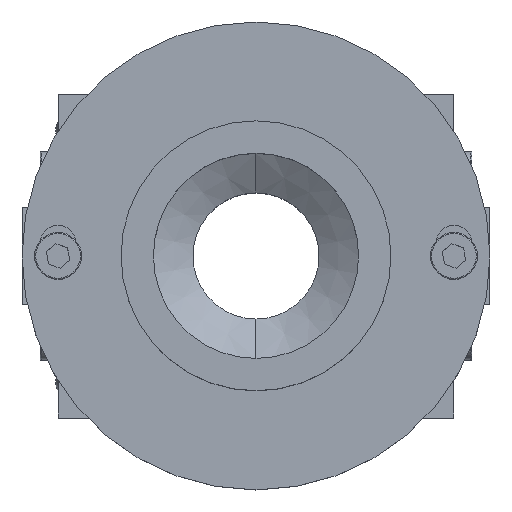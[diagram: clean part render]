
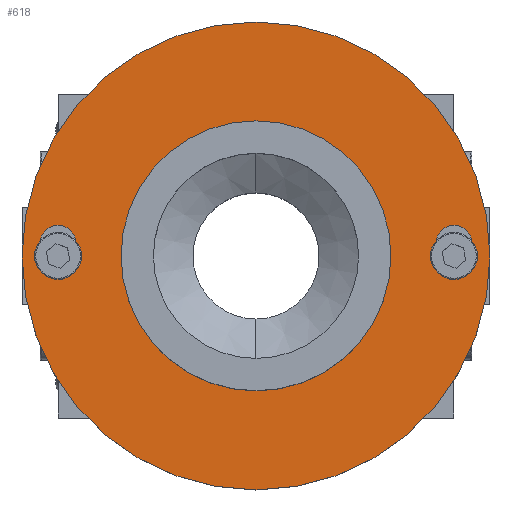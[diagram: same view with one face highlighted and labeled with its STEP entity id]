
A CAD part, top view. The second image highlights one B-rep face of the part: STEP entity #618.
In plain terms, the highlighted planar face has unit normal (0, 0, 1) as drawn and (-1, 0, 0) by its records, which use the part's own axes.
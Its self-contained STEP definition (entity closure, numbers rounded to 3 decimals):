
#35 = ORIENTED_EDGE ( 'NONE', *, *, #3062, .F. ) ;
#40 = ORIENTED_EDGE ( 'NONE', *, *, #3041, .F. ) ;
#65 = ORIENTED_EDGE ( 'NONE', *, *, #3074, .T. ) ;
#88 = ORIENTED_EDGE ( 'NONE', *, *, #3048, .F. ) ;
#99 = ORIENTED_EDGE ( 'NONE', *, *, #3076, .F. ) ;
#104 = ORIENTED_EDGE ( 'NONE', *, *, #2149, .F. ) ;
#107 = ORIENTED_EDGE ( 'NONE', *, *, #3078, .F. ) ;
#124 = ORIENTED_EDGE ( 'NONE', *, *, #3080, .F. ) ;
#133 = ORIENTED_EDGE ( 'NONE', *, *, #3050, .T. ) ;
#140 = ORIENTED_EDGE ( 'NONE', *, *, #3075, .F. ) ;
#461 = DIRECTION ( 'NONE',  ( 1., 0., 0. ) ) ;
#579 = PLANE ( 'NONE',  #3333 ) ;
#584 = DIRECTION ( 'NONE',  ( 0., 0., -1. ) ) ;
#585 = CARTESIAN_POINT ( 'NONE',  ( 23., 65., 0. ) ) ;
#618 = ADVANCED_FACE ( 'NONE', ( #2691, #2947, #2826, #2735 ), #579, .F. ) ;
#753 = ORIENTED_EDGE ( 'NONE', *, *, #3081, .F. ) ;
#758 = ORIENTED_EDGE ( 'NONE', *, *, #3083, .F. ) ;
#771 = ORIENTED_EDGE ( 'NONE', *, *, #2145, .F. ) ;
#785 = ORIENTED_EDGE ( 'NONE', *, *, #3082, .F. ) ;
#857 = CARTESIAN_POINT ( 'NONE',  ( 23., -55., 0. ) ) ;
#859 = DIRECTION ( 'NONE',  ( -1., 0., 0. ) ) ;
#862 = DIRECTION ( 'NONE',  ( 0., 0., 1. ) ) ;
#863 = CARTESIAN_POINT ( 'NONE',  ( 23., 55., 0. ) ) ;
#864 = DIRECTION ( 'NONE',  ( 0., 0., -1. ) ) ;
#870 = DIRECTION ( 'NONE',  ( -1., 0., 0. ) ) ;
#1543 = CARTESIAN_POINT ( 'NONE',  ( 23., 0., 0. ) ) ;
#1544 = DIRECTION ( 'NONE',  ( -1., 0., 0. ) ) ;
#1548 = CARTESIAN_POINT ( 'NONE',  ( 23., 0., 0. ) ) ;
#1549 = DIRECTION ( 'NONE',  ( -1., 0., 0. ) ) ;
#1550 = DIRECTION ( 'NONE',  ( 0., 0., 1. ) ) ;
#1553 = DIRECTION ( 'NONE',  ( 0., 0., 1. ) ) ;
#1567 = CARTESIAN_POINT ( 'NONE',  ( 23., -60., -3.5 ) ) ;
#1801 = DIRECTION ( 'NONE',  ( 0., 0., 1. ) ) ;
#1805 = DIRECTION ( 'NONE',  ( 0., 0., -1. ) ) ;
#1806 = DIRECTION ( 'NONE',  ( -1., 0., 0. ) ) ;
#1807 = DIRECTION ( 'NONE',  ( 0., 0., 1. ) ) ;
#1808 = CARTESIAN_POINT ( 'NONE',  ( 23., 60., -3.5 ) ) ;
#1809 = CARTESIAN_POINT ( 'NONE',  ( 23., 0., 0. ) ) ;
#1810 = DIRECTION ( 'NONE',  ( -1., 0., 0. ) ) ;
#1811 = CARTESIAN_POINT ( 'NONE',  ( 23., 55., 0. ) ) ;
#1812 = DIRECTION ( 'NONE',  ( 0., 0., -1. ) ) ;
#1814 = CARTESIAN_POINT ( 'NONE',  ( 23., 50., -3.5 ) ) ;
#1815 = CARTESIAN_POINT ( 'NONE',  ( 23., 55., -3.5 ) ) ;
#1816 = DIRECTION ( 'NONE',  ( -1., 0., 0. ) ) ;
#1817 = DIRECTION ( 'NONE',  ( 0., 0., -1. ) ) ;
#1819 = DIRECTION ( 'NONE',  ( 0., 0., -1. ) ) ;
#1821 = CARTESIAN_POINT ( 'NONE',  ( 23., -55., 0. ) ) ;
#1822 = CARTESIAN_POINT ( 'NONE',  ( 23., -50., -3.5 ) ) ;
#1823 = DIRECTION ( 'NONE',  ( 0., 0., 1. ) ) ;
#1825 = DIRECTION ( 'NONE',  ( -1., 0., 0. ) ) ;
#1826 = DIRECTION ( 'NONE',  ( -1., 0., 0. ) ) ;
#1827 = CARTESIAN_POINT ( 'NONE',  ( 23., -55., -3.5 ) ) ;
#1828 = DIRECTION ( 'NONE',  ( 0., 0., 1. ) ) ;
#1917 = DIRECTION ( 'NONE',  ( 0., 0., 1. ) ) ;
#2145 = EDGE_CURVE ( 'NONE', #3958, #3683, #2945, .T. ) ;
#2149 = EDGE_CURVE ( 'NONE', #3925, #3689, #2802, .T. ) ;
#2266 = VECTOR ( 'NONE', #1819, 1000. ) ;
#2281 = LINE ( 'NONE', #1808, #2909 ) ;
#2285 = VERTEX_POINT ( 'NONE', #4872 ) ;
#2691 = FACE_BOUND ( 'NONE', #5577, .T. ) ;
#2735 = FACE_OUTER_BOUND ( 'NONE', #5623, .T. ) ;
#2802 = CIRCLE ( 'NONE', #3378, 5. ) ;
#2826 = FACE_BOUND ( 'NONE', #5290, .T. ) ;
#2843 = CIRCLE ( 'NONE', #3344, 65. ) ;
#2855 = CIRCLE ( 'NONE', #3362, 37.5 ) ;
#2864 = VECTOR ( 'NONE', #1801, 1000. ) ;
#2869 = LINE ( 'NONE', #1567, #2922 ) ;
#2878 = CIRCLE ( 'NONE', #3357, 65. ) ;
#2892 = CIRCLE ( 'NONE', #3356, 37.5 ) ;
#2901 = LINE ( 'NONE', #1822, #2266 ) ;
#2903 = CIRCLE ( 'NONE', #3340, 5. ) ;
#2909 = VECTOR ( 'NONE', #1805, 1000. ) ;
#2911 = LINE ( 'NONE', #1814, #2864 ) ;
#2917 = CIRCLE ( 'NONE', #3343, 5. ) ;
#2922 = VECTOR ( 'NONE', #1917, 1000. ) ;
#2945 = CIRCLE ( 'NONE', #3361, 5. ) ;
#2947 = FACE_BOUND ( 'NONE', #5192, .T. ) ;
#2963 = CIRCLE ( 'NONE', #3341, 5. ) ;
#2974 = CIRCLE ( 'NONE', #3345, 5. ) ;
#3041 = EDGE_CURVE ( 'NONE', #3826, #3869, #2855, .T. ) ;
#3048 = EDGE_CURVE ( 'NONE', #3869, #3826, #2892, .T. ) ;
#3050 = EDGE_CURVE ( 'NONE', #2285, #3726, #2878, .T. ) ;
#3062 = EDGE_CURVE ( 'NONE', #3735, #3908, #2869, .T. ) ;
#3074 = EDGE_CURVE ( 'NONE', #3726, #2285, #2843, .T. ) ;
#3075 = EDGE_CURVE ( 'NONE', #3816, #3925, #2974, .T. ) ;
#3076 = EDGE_CURVE ( 'NONE', #3689, #3857, #2281, .T. ) ;
#3078 = EDGE_CURVE ( 'NONE', #3857, #3880, #2917, .T. ) ;
#3080 = EDGE_CURVE ( 'NONE', #3880, #3816, #2911, .T. ) ;
#3081 = EDGE_CURVE ( 'NONE', #3908, #3958, #2903, .T. ) ;
#3082 = EDGE_CURVE ( 'NONE', #3683, #3798, #2901, .T. ) ;
#3083 = EDGE_CURVE ( 'NONE', #3798, #3735, #2963, .T. ) ;
#3333 = AXIS2_PLACEMENT_3D ( 'NONE', #585, #461, #584 ) ;
#3340 = AXIS2_PLACEMENT_3D ( 'NONE', #1821, #1825, #1823 ) ;
#3341 = AXIS2_PLACEMENT_3D ( 'NONE', #1827, #1826, #1828 ) ;
#3343 = AXIS2_PLACEMENT_3D ( 'NONE', #1815, #1816, #1817 ) ;
#3344 = AXIS2_PLACEMENT_3D ( 'NONE', #1809, #1806, #1807 ) ;
#3345 = AXIS2_PLACEMENT_3D ( 'NONE', #1811, #1810, #1812 ) ;
#3356 = AXIS2_PLACEMENT_3D ( 'NONE', #1543, #1544, #1550 ) ;
#3357 = AXIS2_PLACEMENT_3D ( 'NONE', #1548, #1549, #1553 ) ;
#3361 = AXIS2_PLACEMENT_3D ( 'NONE', #857, #859, #862 ) ;
#3362 = AXIS2_PLACEMENT_3D ( 'NONE', #3680, #3679, #3682 ) ;
#3378 = AXIS2_PLACEMENT_3D ( 'NONE', #863, #870, #864 ) ;
#3679 = DIRECTION ( 'NONE',  ( -1., 0., 0. ) ) ;
#3680 = CARTESIAN_POINT ( 'NONE',  ( 23., 0., 0. ) ) ;
#3682 = DIRECTION ( 'NONE',  ( 0., 0., 1. ) ) ;
#3683 = VERTEX_POINT ( 'NONE', #4942 ) ;
#3689 = VERTEX_POINT ( 'NONE', #4853 ) ;
#3726 = VERTEX_POINT ( 'NONE', #4823 ) ;
#3735 = VERTEX_POINT ( 'NONE', #4542 ) ;
#3798 = VERTEX_POINT ( 'NONE', #4290 ) ;
#3816 = VERTEX_POINT ( 'NONE', #4191 ) ;
#3826 = VERTEX_POINT ( 'NONE', #4184 ) ;
#3857 = VERTEX_POINT ( 'NONE', #4883 ) ;
#3869 = VERTEX_POINT ( 'NONE', #4305 ) ;
#3880 = VERTEX_POINT ( 'NONE', #4492 ) ;
#3908 = VERTEX_POINT ( 'NONE', #5056 ) ;
#3925 = VERTEX_POINT ( 'NONE', #5013 ) ;
#3958 = VERTEX_POINT ( 'NONE', #4416 ) ;
#4184 = CARTESIAN_POINT ( 'NONE',  ( 23., 0., -37.5 ) ) ;
#4191 = CARTESIAN_POINT ( 'NONE',  ( 23., 50., 0. ) ) ;
#4290 = CARTESIAN_POINT ( 'NONE',  ( 23., -50., -3.5 ) ) ;
#4305 = CARTESIAN_POINT ( 'NONE',  ( 23., 0., 37.5 ) ) ;
#4416 = CARTESIAN_POINT ( 'NONE',  ( 23., -55., 5. ) ) ;
#4492 = CARTESIAN_POINT ( 'NONE',  ( 23., 50., -3.5 ) ) ;
#4542 = CARTESIAN_POINT ( 'NONE',  ( 23., -60., -3.5 ) ) ;
#4823 = CARTESIAN_POINT ( 'NONE',  ( 23., 0., -65. ) ) ;
#4853 = CARTESIAN_POINT ( 'NONE',  ( 23., 60., 0. ) ) ;
#4872 = CARTESIAN_POINT ( 'NONE',  ( 23., 0., 65. ) ) ;
#4883 = CARTESIAN_POINT ( 'NONE',  ( 23., 60., -3.5 ) ) ;
#4942 = CARTESIAN_POINT ( 'NONE',  ( 23., -50., 0. ) ) ;
#5013 = CARTESIAN_POINT ( 'NONE',  ( 23., 55., 5. ) ) ;
#5056 = CARTESIAN_POINT ( 'NONE',  ( 23., -60., 0. ) ) ;
#5192 = EDGE_LOOP ( 'NONE', ( #124, #107, #99, #104, #140 ) ) ;
#5290 = EDGE_LOOP ( 'NONE', ( #88, #40 ) ) ;
#5577 = EDGE_LOOP ( 'NONE', ( #35, #758, #785, #771, #753 ) ) ;
#5623 = EDGE_LOOP ( 'NONE', ( #133, #65 ) ) ;
